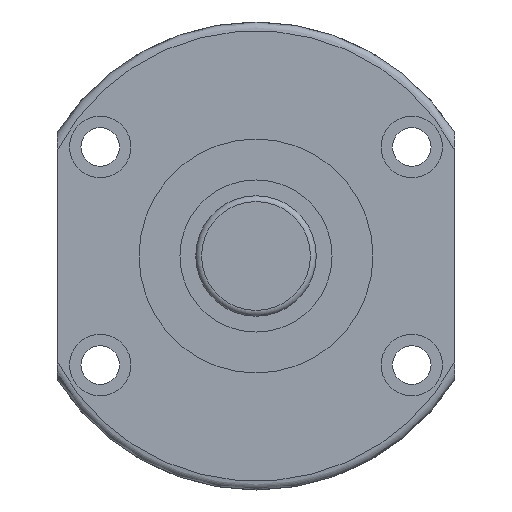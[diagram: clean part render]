
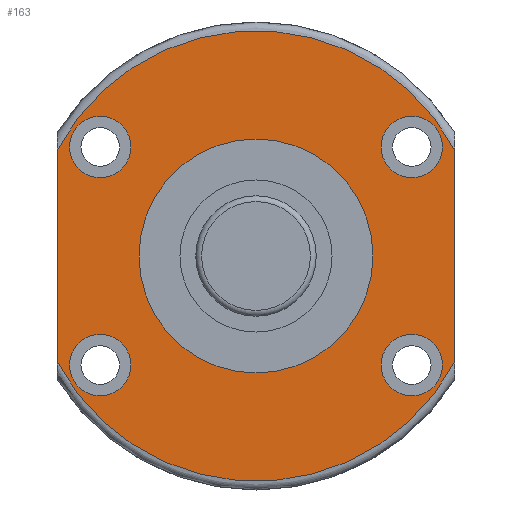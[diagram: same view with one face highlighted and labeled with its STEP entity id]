
A CAD part, left-side view. The second image highlights one B-rep face of the part: STEP entity #163.
In plain terms, the highlighted planar face has unit normal (-1, 0, 0).
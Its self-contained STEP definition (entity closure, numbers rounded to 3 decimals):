
#97=LINE('',#926,#105);
#98=LINE('',#927,#106);
#105=VECTOR('',#730,1.);
#106=VECTOR('',#731,1.);
#133=PLANE('',#628);
#163=ADVANCED_FACE('',(#215,#216,#217,#218,#219,#220),#133,.F.);
#215=FACE_BOUND('',#284,.T.);
#216=FACE_BOUND('',#285,.T.);
#217=FACE_BOUND('',#286,.T.);
#218=FACE_BOUND('',#287,.T.);
#219=FACE_BOUND('',#288,.T.);
#220=FACE_BOUND('',#289,.T.);
#284=EDGE_LOOP('',(#367));
#285=EDGE_LOOP('',(#368));
#286=EDGE_LOOP('',(#369));
#287=EDGE_LOOP('',(#370,#371,#372,#373));
#288=EDGE_LOOP('',(#374));
#289=EDGE_LOOP('',(#375));
#367=ORIENTED_EDGE('',*,*,#523,.T.);
#368=ORIENTED_EDGE('',*,*,#524,.T.);
#369=ORIENTED_EDGE('',*,*,#525,.F.);
#370=ORIENTED_EDGE('',*,*,#526,.T.);
#371=ORIENTED_EDGE('',*,*,#527,.T.);
#372=ORIENTED_EDGE('',*,*,#519,.T.);
#373=ORIENTED_EDGE('',*,*,#528,.T.);
#374=ORIENTED_EDGE('',*,*,#529,.T.);
#375=ORIENTED_EDGE('',*,*,#530,.T.);
#471=VERTEX_POINT('',#895);
#472=VERTEX_POINT('',#896);
#475=VERTEX_POINT('',#918);
#476=VERTEX_POINT('',#920);
#477=VERTEX_POINT('',#922);
#478=VERTEX_POINT('',#924);
#479=VERTEX_POINT('',#925);
#480=VERTEX_POINT('',#929);
#481=VERTEX_POINT('',#931);
#519=EDGE_CURVE('',#471,#472,#571,.T.);
#523=EDGE_CURVE('',#475,#475,#573,.T.);
#524=EDGE_CURVE('',#476,#476,#574,.T.);
#525=EDGE_CURVE('',#477,#477,#575,.T.);
#526=EDGE_CURVE('',#478,#479,#576,.T.);
#527=EDGE_CURVE('',#479,#471,#97,.T.);
#528=EDGE_CURVE('',#472,#478,#98,.T.);
#529=EDGE_CURVE('',#480,#480,#577,.T.);
#530=EDGE_CURVE('',#481,#481,#578,.T.);
#571=CIRCLE('',#619,38.5);
#573=CIRCLE('',#622,5.25);
#574=CIRCLE('',#623,5.25);
#575=CIRCLE('',#624,20.);
#576=CIRCLE('',#625,38.5);
#577=CIRCLE('',#626,5.25);
#578=CIRCLE('',#627,5.25);
#619=AXIS2_PLACEMENT_3D('',#894,#716,#717);
#622=AXIS2_PLACEMENT_3D('',#917,#722,#723);
#623=AXIS2_PLACEMENT_3D('',#919,#724,#725);
#624=AXIS2_PLACEMENT_3D('',#921,#726,#727);
#625=AXIS2_PLACEMENT_3D('',#923,#728,#729);
#626=AXIS2_PLACEMENT_3D('',#928,#732,#733);
#627=AXIS2_PLACEMENT_3D('',#930,#734,#735);
#628=AXIS2_PLACEMENT_3D('',#932,#736,#737);
#716=DIRECTION('',(-1.,0.,0.));
#717=DIRECTION('',(0.,-1.,0.));
#722=DIRECTION('',(1.,0.,0.));
#723=DIRECTION('',(0.,0.,-1.));
#724=DIRECTION('',(1.,0.,0.));
#725=DIRECTION('',(0.,0.,-1.));
#726=DIRECTION('',(-1.,0.,0.));
#727=DIRECTION('',(0.,-1.,0.));
#728=DIRECTION('',(-1.,0.,0.));
#729=DIRECTION('',(0.,-1.,0.));
#730=DIRECTION('',(0.,0.,-1.));
#731=DIRECTION('',(0.,0.,1.));
#732=DIRECTION('',(1.,0.,0.));
#733=DIRECTION('',(0.,0.,-1.));
#734=DIRECTION('',(1.,0.,0.));
#735=DIRECTION('',(0.,0.,-1.));
#736=DIRECTION('',(1.,0.,0.));
#737=DIRECTION('',(0.,1.,0.));
#894=CARTESIAN_POINT('',(147.535,87.895,0.));
#895=CARTESIAN_POINT('',(147.535,121.895,-18.062));
#896=CARTESIAN_POINT('',(147.535,53.895,-18.062));
#917=CARTESIAN_POINT('',(147.535,114.517,18.641));
#918=CARTESIAN_POINT('',(147.535,114.517,13.391));
#919=CARTESIAN_POINT('',(147.535,114.517,-18.641));
#920=CARTESIAN_POINT('',(147.535,114.517,-23.891));
#921=CARTESIAN_POINT('',(147.535,87.895,0.));
#922=CARTESIAN_POINT('',(147.535,67.895,0.));
#923=CARTESIAN_POINT('',(147.535,87.895,0.));
#924=CARTESIAN_POINT('',(147.535,53.895,18.062));
#925=CARTESIAN_POINT('',(147.535,121.895,18.062));
#926=CARTESIAN_POINT('',(147.535,121.895,0.));
#927=CARTESIAN_POINT('',(147.535,53.895,0.));
#928=CARTESIAN_POINT('',(147.535,61.272,-18.641));
#929=CARTESIAN_POINT('',(147.535,61.272,-23.891));
#930=CARTESIAN_POINT('',(147.535,61.272,18.641));
#931=CARTESIAN_POINT('',(147.535,61.272,13.391));
#932=CARTESIAN_POINT('',(147.535,126.395,0.));
